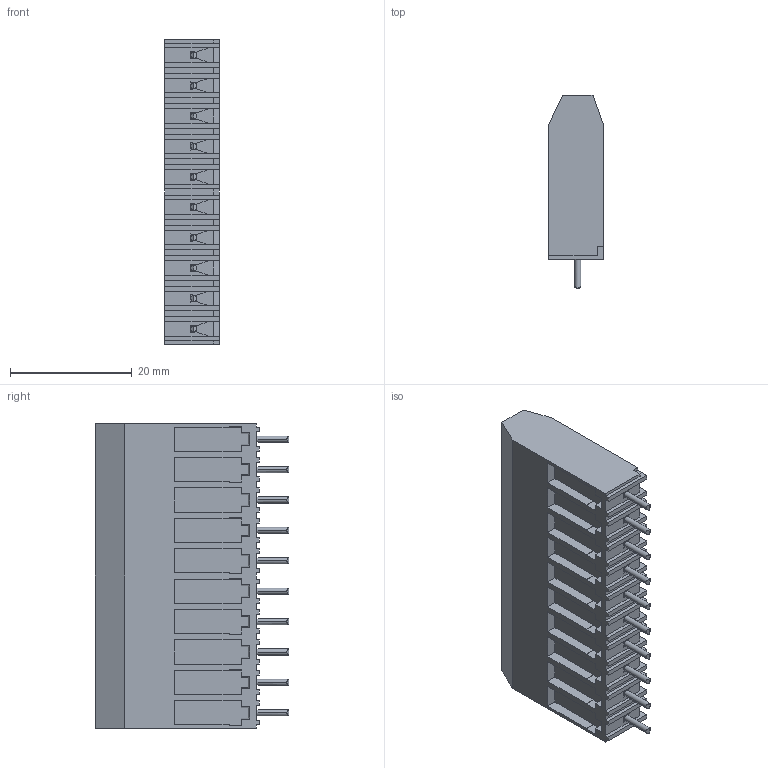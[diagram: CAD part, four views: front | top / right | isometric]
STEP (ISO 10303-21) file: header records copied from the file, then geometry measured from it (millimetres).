
FILE_DESCRIPTION (( 'STEP AP203' ), '1' );
FILE_NAME ('978-HEN-10.STEP', '2017-02-06T18:10:02', ( '' ), ( '' ), 'SwSTEP 2.0', 'SolidWorks 2016', '' );
FILE_SCHEMA (( 'CONFIG_CONTROL_DESIGN' ));
Length unit declared in the file: millimetre
Products named in the file (1): 978-HEN-10
Bounding box: 9 x 31.8 x 50 mm (x, y, z)
Volume: 9474.4 mm3; surface area: 7114.7 mm2
Topology: 1 solids, 1 shells, 1390 faces, 3924 edges, 2566 vertices
Faces by surface type: plane 1180, cylinder 150, cone 60
Entity records: 44825 total; most frequent: CARTESIAN_POINT 9021, ORIENTED_EDGE 7848, DIRECTION 6826, EDGE_CURVE 3924, VECTOR 3204, LINE 3204, VERTEX_POINT 2566, AXIS2_PLACEMENT_3D 1811
